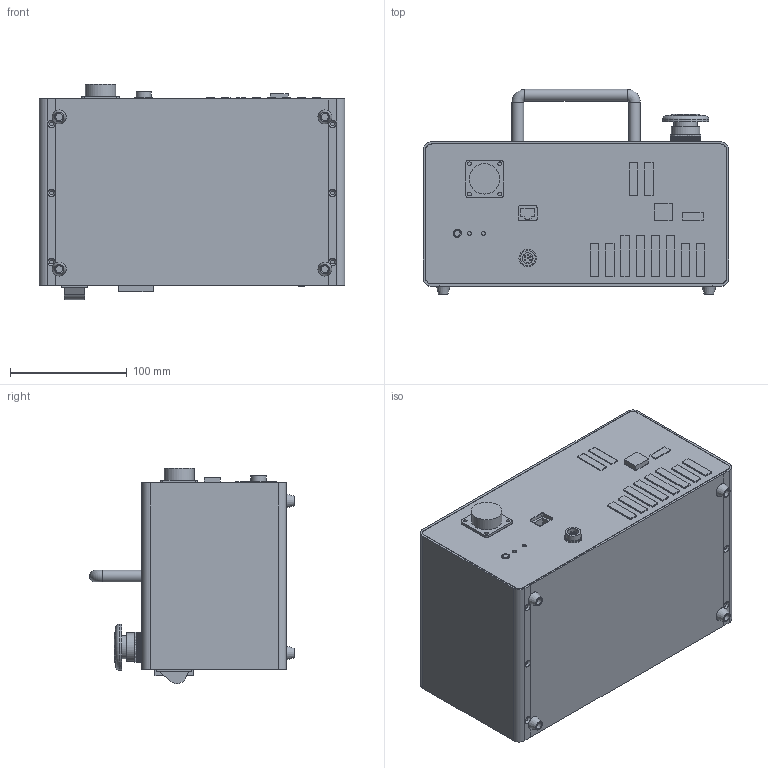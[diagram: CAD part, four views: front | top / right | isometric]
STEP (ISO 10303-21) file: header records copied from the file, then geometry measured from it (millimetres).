
FILE_DESCRIPTION (( 'STEP AP214' ), '1' );
FILE_NAME ('眻盄賑寢諷秶碟_Pub-250527.STEP', '2025-05-27T04:05:11', ( '' ), ( '' ), 'SwSTEP 2.0', 'SolidWorks 2016', '' );
FILE_SCHEMA (( 'AUTOMOTIVE_DESIGN' ));
Length unit declared in the file: millimetre
Products named in the file (1): 眻盄賑寢諷秶碟_Pub-250527
Bounding box: 262 x 176 x 184.72 mm (x, y, z)
Volume: 5236737.4 mm3; surface area: 260775.8 mm2
Topology: 2 solids, 2 shells, 518 faces, 1365 edges, 904 vertices
Faces by surface type: plane 368, cylinder 128, cone 17, torus 4, sphere 1
Full cylindrical faces by diameter (mm): 1.15 x6, 3.2 x8, 6 x4, 7 x1, 10 x3, 13 x1, 15 x2, 20 x1, 21.6 x1, 24.6 x1, 26 x1, 34 x1, 39.6 x1
Entity records: 15929 total; most frequent: CARTESIAN_POINT 2949, DIRECTION 2648, ORIENTED_EDGE 2606, EDGE_CURVE 1303, VECTOR 970, LINE 970, VERTEX_POINT 894, AXIS2_PLACEMENT_3D 839
